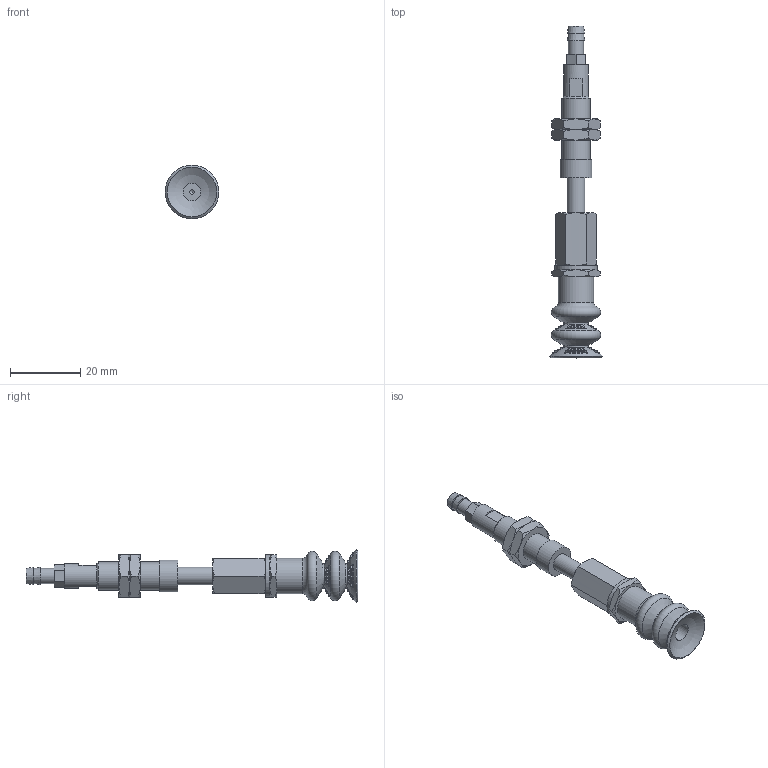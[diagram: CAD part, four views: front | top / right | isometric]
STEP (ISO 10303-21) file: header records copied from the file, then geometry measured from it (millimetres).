
FILE_DESCRIPTION(('STEP AP203'),'1');
FILE_NAME('-T.stp','2025-08-27T02:14:41',(' '),(' '),'Spatial InterOp 3D',' ',' ');
FILE_SCHEMA(('CONFIG_CONTROL_DESIGN'));
Length unit declared in the file: millimetre
Products named in the file (8): BNABPCTS-15-10-※-T; ADAPTER; NAPCTS-10-10-MBODY; Adapter_napc-15-T; Nut napc_s-15-10; NAPCTS-15-10-FBODY; BPCG-15-※; T
Assembly tree (8 placements, depth 2):
  BNABPCTS-15-10-※-T
    ADAPTER
    NAPCTS-10-10-MBODY
    Adapter_napc-15-T
    Nut napc_s-15-10  x2
    NAPCTS-15-10-FBODY
    BPCG-15-※
    T
Bounding box: 15.2 x 94.2 x 15.2 mm (x, y, z)
Volume: 5757.3 mm3; surface area: 6055.4 mm2
Topology: 8 solids, 8 shells, 238 faces, 692 edges, 445 vertices
Faces by surface type: cone 66, plane 60, sphere 58, torus 34, cylinder 20
Full cylindrical faces by diameter (mm): 1.25 x1, 3 x1, 4.134 x2, 4.3 x1, 5 x8, 7 x1, 7.188 x2, 8 x1, 9 x1, 10 x1, 12 x1
Entity records: 6789 total; most frequent: CARTESIAN_POINT 1928, DIRECTION 980, ORIENTED_EDGE 816, AXIS2_PLACEMENT_3D 468, EDGE_CURVE 408, EDGE_LOOP 306, VERTEX_POINT 289, CIRCLE 244
